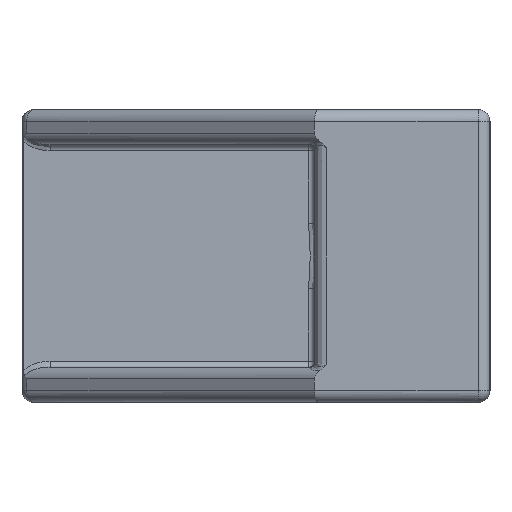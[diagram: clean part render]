
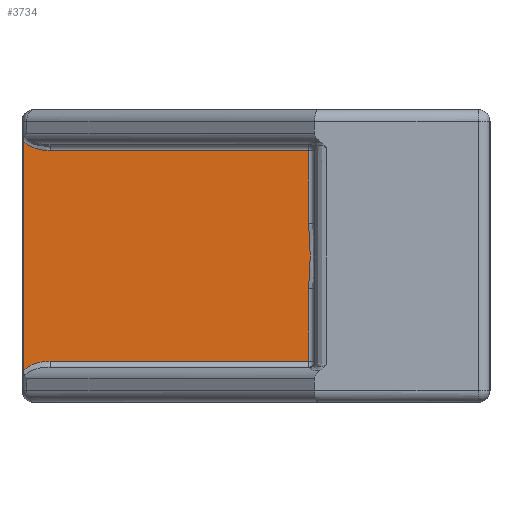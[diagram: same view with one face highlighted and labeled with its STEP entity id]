
A CAD part, left-side view. The second image highlights one B-rep face of the part: STEP entity #3734.
In plain terms, the highlighted planar face has unit normal (-1, 0, 0).
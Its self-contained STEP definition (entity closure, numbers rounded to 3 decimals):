
#62 = CARTESIAN_POINT ( 'NONE',  ( -205.18, 15.462, 18.532 ) ) ;
#159 = CARTESIAN_POINT ( 'NONE',  ( -205.18, 39.859, 30.182 ) ) ;
#214 = CARTESIAN_POINT ( 'NONE',  ( -205.18, 37.594, 11.388 ) ) ;
#240 = CARTESIAN_POINT ( 'NONE',  ( -205.18, 15.5, 23.172 ) ) ;
#292 = VERTEX_POINT ( 'NONE', #2454 ) ;
#303 = CARTESIAN_POINT ( 'NONE',  ( -205.18, 15.5, 11.388 ) ) ;
#349 = CARTESIAN_POINT ( 'NONE',  ( -205.18, 39.859, 10.595 ) ) ;
#370 = CARTESIAN_POINT ( 'NONE',  ( -205.18, 15.366, 19.923 ) ) ;
#437 = LINE ( 'NONE', #2811, #3707 ) ;
#470 = ORIENTED_EDGE ( 'NONE', *, *, #1700, .T. ) ;
#525 = ORIENTED_EDGE ( 'NONE', *, *, #1403, .T. ) ;
#609 = ORIENTED_EDGE ( 'NONE', *, *, #3483, .T. ) ;
#647 = ORIENTED_EDGE ( 'NONE', *, *, #1221, .T. ) ;
#656 = CARTESIAN_POINT ( 'NONE',  ( -205.18, 15.5, 17.604 ) ) ;
#670 = CARTESIAN_POINT ( 'NONE',  ( -205.18, 15.394, 21.315 ) ) ;
#704 = CARTESIAN_POINT ( 'NONE',  ( -205.18, 40., 11.388 ) ) ;
#770 = FACE_OUTER_BOUND ( 'NONE', #3949, .T. ) ;
#813 = VERTEX_POINT ( 'NONE', #214 ) ;
#980 = CARTESIAN_POINT ( 'NONE',  ( -205.18, 15.5, 22.707 ) ) ;
#1101 = CARTESIAN_POINT ( 'NONE',  ( -205.18, 38.567, 29.388 ) ) ;
#1146 = EDGE_CURVE ( 'NONE', #1997, #1443, #1744, .T. ) ;
#1209 = PLANE ( 'NONE',  #3137 ) ;
#1221 = EDGE_CURVE ( 'NONE', #3105, #2153, #2843, .T. ) ;
#1403 = EDGE_CURVE ( 'NONE', #1443, #3781, #3101, .T. ) ;
#1443 = VERTEX_POINT ( 'NONE', #159 ) ;
#1529 = DIRECTION ( 'NONE',  ( -1., 0., 0. ) ) ;
#1599 = ORIENTED_EDGE ( 'NONE', *, *, #2590, .T. ) ;
#1609 = CARTESIAN_POINT ( 'NONE',  ( -205.18, 37.594, 11.388 ) ) ;
#1651 = DIRECTION ( 'NONE',  ( 0., -1., 0. ) ) ;
#1700 = EDGE_CURVE ( 'NONE', #292, #3105, #2196, .T. ) ;
#1744 =( BOUNDED_CURVE ( )  B_SPLINE_CURVE ( 3, ( #2679, #1101, #2662, #3001 ),
 .UNSPECIFIED., .F., .T. ) 
 B_SPLINE_CURVE_WITH_KNOTS ( ( 4, 4 ),
 ( 1.571, 2.651 ),
 .UNSPECIFIED. ) 
 CURVE ( )  GEOMETRIC_REPRESENTATION_ITEM ( )  RATIONAL_B_SPLINE_CURVE ( ( 1., 0.905, 0.905, 1. ) ) 
 REPRESENTATION_ITEM ( '' )  );
#1855 = CARTESIAN_POINT ( 'NONE',  ( -205.18, 15.5, 29.888 ) ) ;
#1928 = VECTOR ( 'NONE', #3782, 1000. ) ;
#1944 = ORIENTED_EDGE ( 'NONE', *, *, #3637, .T. ) ;
#1972 = CARTESIAN_POINT ( 'NONE',  ( -205.18, 39.859, 30.491 ) ) ;
#1997 = VERTEX_POINT ( 'NONE', #3988 ) ;
#2153 = VERTEX_POINT ( 'NONE', #3065 ) ;
#2167 = CARTESIAN_POINT ( 'NONE',  ( -205.18, 39.859, 10.595 ) ) ;
#2196 = B_SPLINE_CURVE_WITH_KNOTS ( 'NONE', 3,
 ( #656, #3179, #62, #2237, #370, #2553, #670, #2859, #980, #3194 ),
 .UNSPECIFIED., .F., .F.,
 ( 4, 2, 2, 2, 4 ),
 ( 0., 0.001, 0.003, 0.004, 0.006 ),
 .UNSPECIFIED. ) ;
#2215 = CARTESIAN_POINT ( 'NONE',  ( -205.18, 39.401, 11.096 ) ) ;
#2237 = CARTESIAN_POINT ( 'NONE',  ( -205.18, 15.394, 19.459 ) ) ;
#2261 = VECTOR ( 'NONE', #2902, 1000. ) ;
#2291 = VERTEX_POINT ( 'NONE', #303 ) ;
#2454 = CARTESIAN_POINT ( 'NONE',  ( -205.18, 15.5, 17.604 ) ) ;
#2553 = CARTESIAN_POINT ( 'NONE',  ( -205.18, 15.366, 20.851 ) ) ;
#2590 = EDGE_CURVE ( 'NONE', #3781, #813, #4034, .T. ) ;
#2662 = CARTESIAN_POINT ( 'NONE',  ( -205.18, 39.401, 29.681 ) ) ;
#2679 = CARTESIAN_POINT ( 'NONE',  ( -205.18, 37.594, 29.388 ) ) ;
#2738 = LINE ( 'NONE', #704, #2830 ) ;
#2811 = CARTESIAN_POINT ( 'NONE',  ( -205.18, 40., 29.388 ) ) ;
#2830 = VECTOR ( 'NONE', #1651, 1000. ) ;
#2843 = LINE ( 'NONE', #1855, #1928 ) ;
#2859 = CARTESIAN_POINT ( 'NONE',  ( -205.18, 15.462, 22.243 ) ) ;
#2902 = DIRECTION ( 'NONE',  ( 0., 0., -1. ) ) ;
#3001 = CARTESIAN_POINT ( 'NONE',  ( -205.18, 39.859, 30.182 ) ) ;
#3065 = CARTESIAN_POINT ( 'NONE',  ( -205.18, 15.5, 29.388 ) ) ;
#3101 = LINE ( 'NONE', #1972, #2261 ) ;
#3105 = VERTEX_POINT ( 'NONE', #240 ) ;
#3106 = CARTESIAN_POINT ( 'NONE',  ( -205.18, 15.5, 20.388 ) ) ;
#3137 = AXIS2_PLACEMENT_3D ( 'NONE', #3430, #1529, #3743 ) ;
#3179 = CARTESIAN_POINT ( 'NONE',  ( -205.18, 15.5, 18.069 ) ) ;
#3194 = CARTESIAN_POINT ( 'NONE',  ( -205.18, 15.5, 23.172 ) ) ;
#3244 = VECTOR ( 'NONE', #4072, 1000. ) ;
#3357 = LINE ( 'NONE', #3106, #3244 ) ;
#3430 = CARTESIAN_POINT ( 'NONE',  ( -205.18, 40., 0. ) ) ;
#3483 = EDGE_CURVE ( 'NONE', #2291, #292, #3357, .T. ) ;
#3505 = CARTESIAN_POINT ( 'NONE',  ( -205.18, 38.567, 11.388 ) ) ;
#3588 = EDGE_CURVE ( 'NONE', #2153, #1997, #437, .T. ) ;
#3637 = EDGE_CURVE ( 'NONE', #813, #2291, #2738, .T. ) ;
#3707 = VECTOR ( 'NONE', #3795, 1000. ) ;
#3734 = ADVANCED_FACE ( 'NONE', ( #770 ), #1209, .T. ) ;
#3743 = DIRECTION ( 'NONE',  ( 0., 0., -1. ) ) ;
#3781 = VERTEX_POINT ( 'NONE', #2167 ) ;
#3782 = DIRECTION ( 'NONE',  ( 0., 0., 1. ) ) ;
#3795 = DIRECTION ( 'NONE',  ( 0., 1., 0. ) ) ;
#3827 = ORIENTED_EDGE ( 'NONE', *, *, #3588, .T. ) ;
#3949 = EDGE_LOOP ( 'NONE', ( #525, #1599, #1944, #609, #470, #647, #3827, #4064 ) ) ;
#3988 = CARTESIAN_POINT ( 'NONE',  ( -205.18, 37.594, 29.388 ) ) ;
#4034 =( BOUNDED_CURVE ( )  B_SPLINE_CURVE ( 3, ( #349, #2215, #3505, #1609 ),
 .UNSPECIFIED., .F., .T. ) 
 B_SPLINE_CURVE_WITH_KNOTS ( ( 4, 4 ),
 ( 0.49, 1.571 ),
 .UNSPECIFIED. ) 
 CURVE ( )  GEOMETRIC_REPRESENTATION_ITEM ( )  RATIONAL_B_SPLINE_CURVE ( ( 1., 0.905, 0.905, 1. ) ) 
 REPRESENTATION_ITEM ( '' )  );
#4064 = ORIENTED_EDGE ( 'NONE', *, *, #1146, .T. ) ;
#4072 = DIRECTION ( 'NONE',  ( 0., 0., 1. ) ) ;
